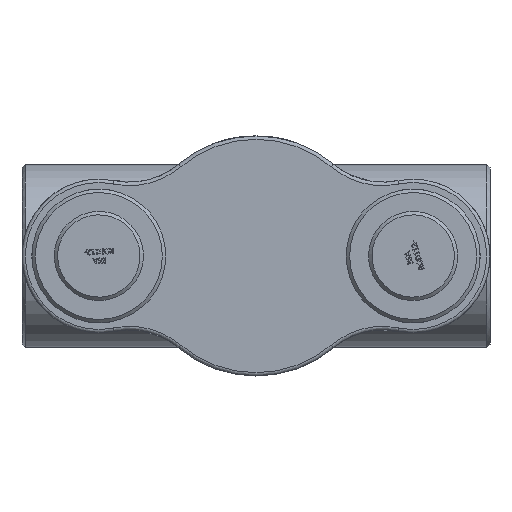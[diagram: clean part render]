
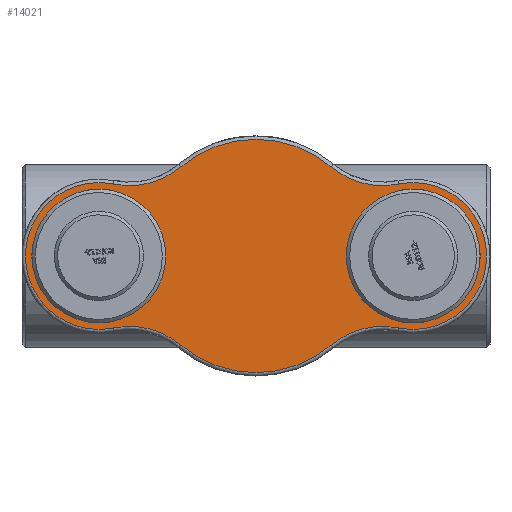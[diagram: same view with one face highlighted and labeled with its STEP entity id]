
A CAD part, front view. The second image highlights one B-rep face of the part: STEP entity #14021.
In plain terms, the highlighted planar face has unit normal (0, -1, 0) as drawn and (0, 0, -1) by its records, which use the part's own axes.
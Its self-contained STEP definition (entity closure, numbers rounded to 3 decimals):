
#3678=PLANE('',#14923);
#4110=FACE_BOUND('',#5021,.T.);
#4111=FACE_BOUND('',#5022,.T.);
#4207=FACE_OUTER_BOUND('',#5020,.T.);
#5020=EDGE_LOOP('',(#9704,#9705,#9706,#9707,#9708,#9709,#9710,#9711));
#5021=EDGE_LOOP('',(#9712));
#5022=EDGE_LOOP('',(#9713));
#5928=CIRCLE('',#14922,73.);
#5929=CIRCLE('',#14924,107.);
#5930=CIRCLE('',#14925,117.);
#5931=CIRCLE('',#14926,170.);
#5932=CIRCLE('',#14927,117.);
#5933=CIRCLE('',#14928,107.);
#5934=CIRCLE('',#14929,117.);
#5935=CIRCLE('',#14930,170.);
#5936=CIRCLE('',#14931,117.);
#5937=CIRCLE('',#14932,73.);
#6122=VERTEX_POINT('',#18491);
#6123=VERTEX_POINT('',#18494);
#6124=VERTEX_POINT('',#18495);
#6125=VERTEX_POINT('',#18497);
#6126=VERTEX_POINT('',#18499);
#6127=VERTEX_POINT('',#18501);
#6128=VERTEX_POINT('',#18503);
#6129=VERTEX_POINT('',#18505);
#6130=VERTEX_POINT('',#18507);
#6131=VERTEX_POINT('',#18510);
#7554=EDGE_CURVE('',#6122,#6122,#5928,.T.);
#7555=EDGE_CURVE('',#6123,#6124,#5929,.T.);
#7556=EDGE_CURVE('',#6125,#6123,#5930,.T.);
#7557=EDGE_CURVE('',#6126,#6125,#5931,.T.);
#7558=EDGE_CURVE('',#6127,#6126,#5932,.T.);
#7559=EDGE_CURVE('',#6128,#6127,#5933,.T.);
#7560=EDGE_CURVE('',#6129,#6128,#5934,.T.);
#7561=EDGE_CURVE('',#6130,#6129,#5935,.T.);
#7562=EDGE_CURVE('',#6124,#6130,#5936,.T.);
#7563=EDGE_CURVE('',#6131,#6131,#5937,.T.);
#9704=ORIENTED_EDGE('',*,*,#7555,.F.);
#9705=ORIENTED_EDGE('',*,*,#7556,.F.);
#9706=ORIENTED_EDGE('',*,*,#7557,.F.);
#9707=ORIENTED_EDGE('',*,*,#7558,.F.);
#9708=ORIENTED_EDGE('',*,*,#7559,.F.);
#9709=ORIENTED_EDGE('',*,*,#7560,.F.);
#9710=ORIENTED_EDGE('',*,*,#7561,.F.);
#9711=ORIENTED_EDGE('',*,*,#7562,.F.);
#9712=ORIENTED_EDGE('',*,*,#7563,.F.);
#9713=ORIENTED_EDGE('',*,*,#7554,.F.);
#14021=ADVANCED_FACE('',(#4207,#4110,#4111),#3678,.F.);
#14922=AXIS2_PLACEMENT_3D('',#18492,#15681,#15682);
#14923=AXIS2_PLACEMENT_3D('',#18493,#15683,#15684);
#14924=AXIS2_PLACEMENT_3D('',#18496,#15685,#15686);
#14925=AXIS2_PLACEMENT_3D('',#18498,#15687,#15688);
#14926=AXIS2_PLACEMENT_3D('',#18500,#15689,#15690);
#14927=AXIS2_PLACEMENT_3D('',#18502,#15691,#15692);
#14928=AXIS2_PLACEMENT_3D('',#18504,#15693,#15694);
#14929=AXIS2_PLACEMENT_3D('',#18506,#15695,#15696);
#14930=AXIS2_PLACEMENT_3D('',#18508,#15697,#15698);
#14931=AXIS2_PLACEMENT_3D('',#18509,#15699,#15700);
#14932=AXIS2_PLACEMENT_3D('',#18511,#15701,#15702);
#15681=DIRECTION('center_axis',(0.,0.,-1.));
#15682=DIRECTION('ref_axis',(1.,0.,0.));
#15683=DIRECTION('center_axis',(0.,0.,1.));
#15684=DIRECTION('ref_axis',(1.,0.,0.));
#15685=DIRECTION('center_axis',(0.,0.,1.));
#15686=DIRECTION('ref_axis',(-1.,0.,0.));
#15687=DIRECTION('center_axis',(0.,0.,-1.));
#15688=DIRECTION('ref_axis',(0.248,-0.969,0.));
#15689=DIRECTION('center_axis',(0.,0.,1.));
#15690=DIRECTION('ref_axis',(0.,1.,0.));
#15691=DIRECTION('center_axis',(0.,0.,-1.));
#15692=DIRECTION('ref_axis',(-0.248,-0.969,0.));
#15693=DIRECTION('center_axis',(0.,0.,1.));
#15694=DIRECTION('ref_axis',(1.,0.,0.));
#15695=DIRECTION('center_axis',(0.,0.,-1.));
#15696=DIRECTION('ref_axis',(-0.248,0.969,0.));
#15697=DIRECTION('center_axis',(0.,0.,1.));
#15698=DIRECTION('ref_axis',(0.,-1.,0.));
#15699=DIRECTION('center_axis',(0.,0.,-1.));
#15700=DIRECTION('ref_axis',(0.248,0.969,0.));
#15701=DIRECTION('center_axis',(0.,0.,-1.));
#15702=DIRECTION('ref_axis',(1.,0.,0.));
#18491=CARTESIAN_POINT('',(156.,0.,0.));
#18492=CARTESIAN_POINT('Origin',(229.,0.,0.));
#18493=CARTESIAN_POINT('Origin',(0.,0.,0.));
#18494=CARTESIAN_POINT('',(-207.882,104.895,0.));
#18495=CARTESIAN_POINT('',(-207.882,-104.895,0.));
#18496=CARTESIAN_POINT('Origin',(-229.,0.,0.));
#18497=CARTESIAN_POINT('',(-109.458,130.073,0.));
#18498=CARTESIAN_POINT('Origin',(-184.79,219.594,0.));
#18499=CARTESIAN_POINT('',(109.458,130.073,0.));
#18500=CARTESIAN_POINT('Origin',(0.,0.,0.));
#18501=CARTESIAN_POINT('',(207.882,104.895,0.));
#18502=CARTESIAN_POINT('Origin',(184.79,219.594,0.));
#18503=CARTESIAN_POINT('',(207.882,-104.895,0.));
#18504=CARTESIAN_POINT('Origin',(229.,0.,0.));
#18505=CARTESIAN_POINT('',(109.458,-130.073,0.));
#18506=CARTESIAN_POINT('Origin',(184.79,-219.594,0.));
#18507=CARTESIAN_POINT('',(-109.458,-130.073,0.));
#18508=CARTESIAN_POINT('Origin',(0.,0.,0.));
#18509=CARTESIAN_POINT('Origin',(-184.79,-219.594,0.));
#18510=CARTESIAN_POINT('',(-302.,0.,0.));
#18511=CARTESIAN_POINT('Origin',(-229.,0.,0.));
